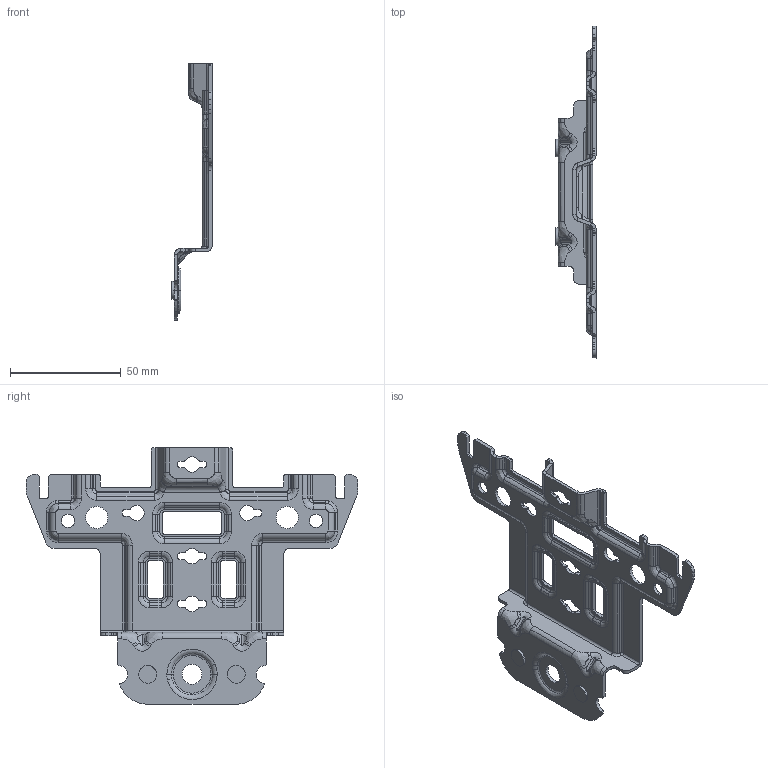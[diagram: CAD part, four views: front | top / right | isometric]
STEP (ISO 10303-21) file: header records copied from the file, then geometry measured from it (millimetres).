
FILE_DESCRIPTION(('CATIA V5 STEP Exchange'),'2;1');
FILE_NAME('C:\Users\nobody\Desktop\SHT0015265.stp','2024-04-01T08:35:56+00:00',('none'),('none'),'CATIA Version 5 Release 20 GA (IN-10)','CATIA V5 STEP AP203 Edition 2','none');
FILE_SCHEMA(('AP203_CONFIGURATION_CONTROLLED_3D_DESIGN_OF_MECHANICAL_PARTS_AND_ASSEMBLIES_MIM_LF { 1 0 10303 403 2 1 2}'));
Products named in the file (1): SHT0015265
Bounding box: 18.13 x 150 x 115.87 mm (x, y, z)
Volume: 15980.1 mm3; surface area: 22988.1 mm2
Topology: 1 solids, 1 shells, 802 faces, 2162 edges, 1374 vertices
Faces by surface type: cylinder 464, plane 162, bspline 88, torus 56, revolution 32
Entity records: 63818 total; most frequent: CARTESIAN_POINT 45545, ORIENTED_EDGE 4324, DIRECTION 2792, EDGE_CURVE 2162, VERTEX_POINT 1374, AXIS2_PLACEMENT_3D 1296, EDGE_LOOP 840, VECTOR 805
